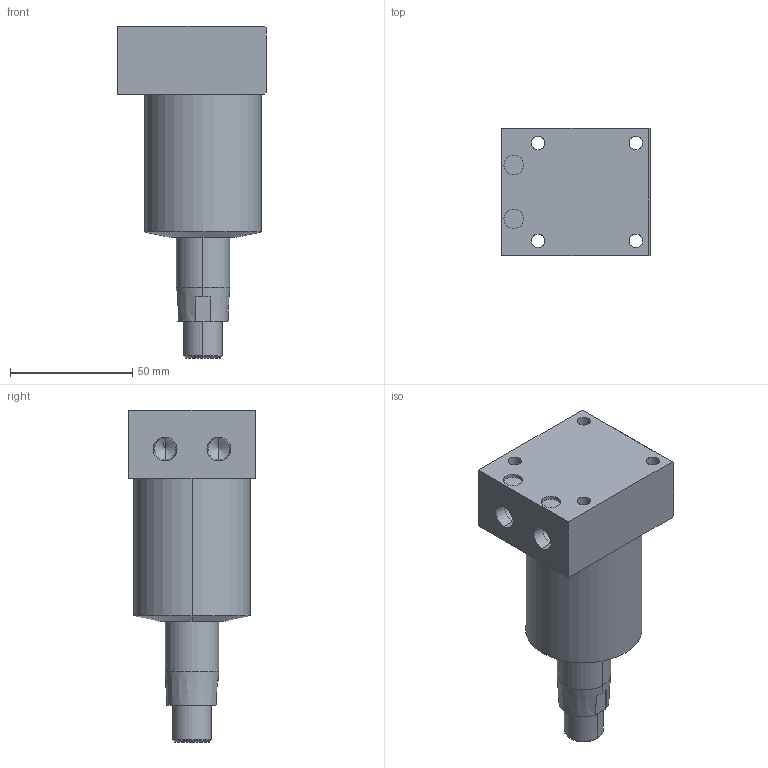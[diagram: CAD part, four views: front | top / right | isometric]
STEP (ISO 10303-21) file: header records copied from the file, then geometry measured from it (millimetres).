
FILE_DESCRIPTION (( 'STEP AP214' ), '1' );
FILE_NAME ('SB03-482-L-BM-TAPER.STEP', '2021-08-22T06:46:52', ( '' ), ( '' ), 'SwSTEP 2.0', 'SolidWorks 2019', '' );
FILE_SCHEMA (( 'AUTOMOTIVE_DESIGN' ));
Length unit declared in the file: millimetre
Products named in the file (3): BM-48-BODY; SB03-482-L-BM-TAPER; 48-TAPER-PISTON
Assembly tree (2 placements, depth 2):
  SB03-482-L-BM-TAPER
    BM-48-BODY
    48-TAPER-PISTON
Bounding box: 61 x 52 x 136 mm (x, y, z)
Volume: 192606 mm3; surface area: 35660.8 mm2
Topology: 2 solids, 2 shells, 57 faces, 130 edges, 80 vertices
Faces by surface type: cylinder 24, plane 19, cone 14
Entity records: 1715 total; most frequent: DIRECTION 308, CARTESIAN_POINT 277, ORIENTED_EDGE 252, EDGE_CURVE 126, AXIS2_PLACEMENT_3D 122, VERTEX_POINT 80, EDGE_LOOP 72, LINE 64
